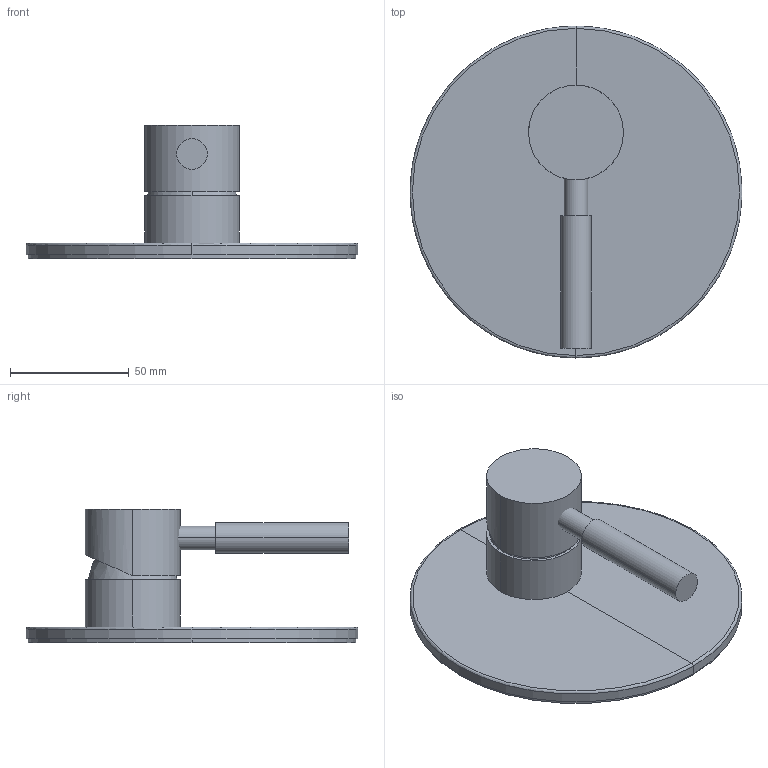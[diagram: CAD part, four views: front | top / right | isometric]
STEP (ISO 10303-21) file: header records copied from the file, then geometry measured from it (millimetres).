
FILE_DESCRIPTION(('FreeCAD Model'),'2;1');
FILE_NAME('Open CASCADE Shape Model','2024-07-23T15:14:17',('Author'),( ''),'Open CASCADE STEP processor 7.6','FreeCAD','Unknown');
FILE_SCHEMA(('AUTOMOTIVE_DESIGN { 1 0 10303 214 1 1 1 1 }'));
Length unit declared in the file: millimetre
Products named in the file (6): TopLevelAssembly; Obrót profilu; Połączona geometria bryłowa; Wyciąganie001; Wyciąganie002; Połączona geometria bryłowa001
Assembly tree (5 placements, depth 2):
  TopLevelAssembly
    Obrót profilu
    Połączona geometria bryłowa
    Wyciąganie001
    Wyciąganie002
    Połączona geometria bryłowa001
Bounding box: 140 x 140 x 56.1 mm (x, y, z)
Volume: 181112.9 mm3; surface area: 48431.4 mm2
Topology: 5 solids, 5 shells, 31 faces, 56 edges, 33 vertices
Faces by surface type: plane 15, cylinder 12, bspline 4
Entity records: 936 total; most frequent: CARTESIAN_POINT 180, DIRECTION 156, ORIENTED_EDGE 108, AXIS2_PLACEMENT_3D 69, EDGE_CURVE 54, CIRCLE 35, VERTEX_POINT 33, ADVANCED_FACE 31
